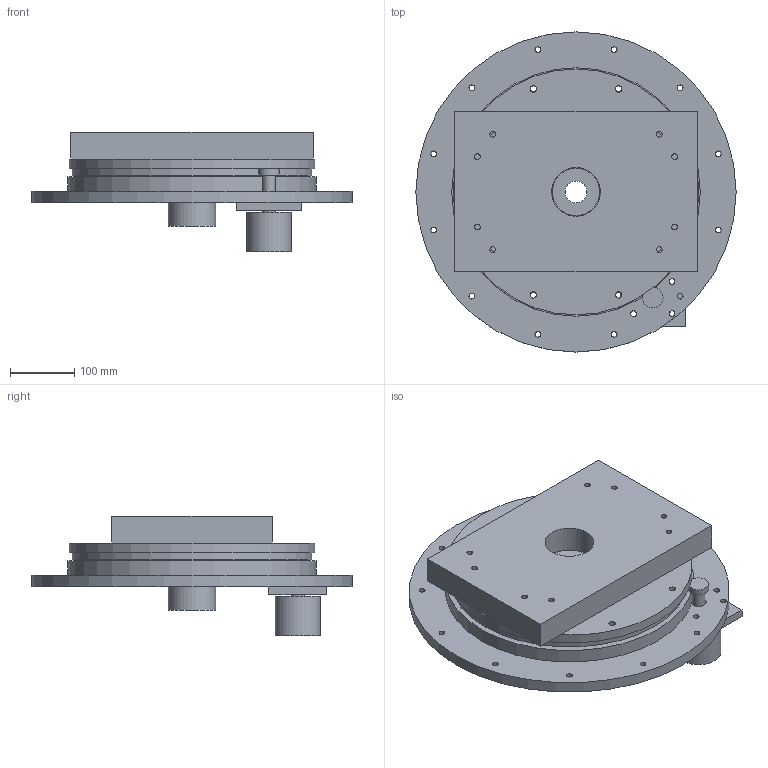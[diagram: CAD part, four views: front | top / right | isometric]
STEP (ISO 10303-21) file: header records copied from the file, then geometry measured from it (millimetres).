
FILE_DESCRIPTION(('Open CASCADE Model'),'2;1');
FILE_NAME('Open CASCADE Shape Model','2026-10-08T06:58:26',('Author'),( 'Open CASCADE'),'Open CASCADE STEP processor 7.8','Open CASCADE 7.8' ,'Unknown');
FILE_SCHEMA(('AUTOMOTIVE_DESIGN { 1 0 10303 214 1 1 1 1 }'));
Length unit declared in the file: millimetre
Products named in the file (12): BASE_AND_AZIMUTH_SUBASSEMBLY; 01_fixed_base_plate; 02_az_bearing_housing; 03_az_bearing_envelope; 04_az_hollow_shaft; 31_az_shaft_hub; 05_az_drive_ring; 06_az_rotating_turntable; 07_rotating_base_deck; 26_az_motor_mount; 27_az_motor_envelope; 28_az_pinion_blank
Assembly tree (11 placements, depth 2):
  BASE_AND_AZIMUTH_SUBASSEMBLY
    01_fixed_base_plate
    02_az_bearing_housing
    03_az_bearing_envelope
    04_az_hollow_shaft
    31_az_shaft_hub
    05_az_drive_ring
    06_az_rotating_turntable
    07_rotating_base_deck
    26_az_motor_mount
    27_az_motor_envelope
    28_az_pinion_blank
Bounding box: 500 x 500 x 187 mm (x, y, z)
Volume: 11978739.2 mm3; surface area: 1398677.3 mm2
Topology: 11 solids, 11 shells, 127 faces, 312 edges, 208 vertices
Faces by surface type: cylinder 96, plane 31
Full cylindrical faces by diameter (mm): 8 x12, 9 x32, 10 x32, 20 x1, 24 x1, 32 x1, 34 x1, 38 x1, 70 x1, 74 x1, 74.2 x1, 76 x3, 150 x1, 232 x1, 310 x2, 320 x1, 374 x1, 384 x1, 388 x1, 500 x1
Entity records: 9032 total; most frequent: CARTESIAN_POINT 2267, DIRECTION 1242, ORIENTED_EDGE 624, PCURVE 624, DEFINITIONAL_REPRESENTATION 624, LINE 552, VECTOR 552, AXIS2_PLACEMENT_3D 331
